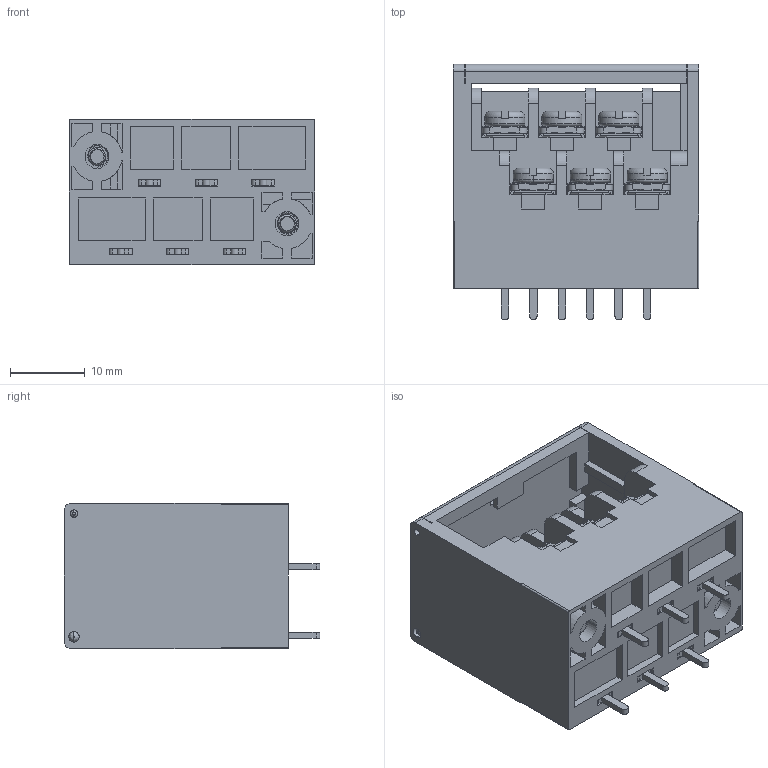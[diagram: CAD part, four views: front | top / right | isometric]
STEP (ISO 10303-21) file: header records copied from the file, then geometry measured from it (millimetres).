
FILE_DESCRIPTION((''),'2;1');
FILE_NAME('YK661061XX01G','2021-05-07T',('hanke'),(''),'CREO PARAMETRIC BY PTC INC, 2016260','CREO PARAMETRIC BY PTC INC, 2016260','');
FILE_SCHEMA(('CONFIG_CONTROL_DESIGN'));
Products named in the file (1): YK661061XX01G
Bounding box: 32.83 x 34.2 x 19.5 mm (x, y, z)
Volume: 10609.3 mm3; surface area: 16353.9 mm2
Topology: 6 solids, 190 shells, 3871 faces, 10529 edges, 6882 vertices
Faces by surface type: plane 1912, bspline 1070, cylinder 685, torus 140, cone 54, revolution 10
Entity records: 172374 total; most frequent: CARTESIAN_POINT 81015, ORIENTED_EDGE 21058, DIRECTION 15267, EDGE_CURVE 10529, VERTEX_POINT 6882, VECTOR 6419, LINE 6419, AXIS2_PLACEMENT_3D 4419
